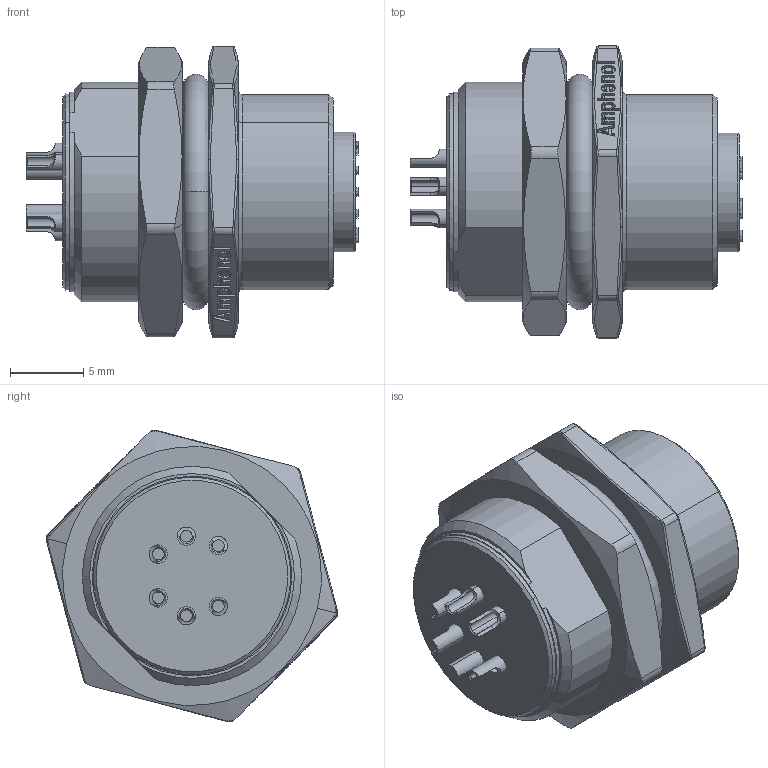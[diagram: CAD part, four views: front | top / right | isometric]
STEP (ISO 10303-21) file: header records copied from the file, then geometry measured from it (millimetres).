
FILE_DESCRIPTION((''),'2;1');
FILE_NAME('M12A-06PFFS-SH8001_SW0001','2016-11-30T',('ks7709'),(''),'PRO/ENGINEER BY PARAMETRIC TECHNOLOGY CORPORATION, 2013050','PRO/ENGINEER BY PARAMETRIC TECHNOLOGY CORPORATION, 2013050','');
FILE_SCHEMA(('CONFIG_CONTROL_DESIGN'));
Length unit declared in the file: millimetre
Products named in the file (1): M12A-06PFFS-SH8001_SW0001
Bounding box: 22.7 x 19.96 x 19.96 mm (x, y, z)
Volume: 3247.8 mm3; surface area: 2705.4 mm2
Topology: 1 solids, 1 shells, 704 faces, 1823 edges, 1184 vertices
Faces by surface type: plane 312, extrusion 141, cylinder 134, cone 66, bspline 38, torus 11, sphere 2
Entity records: 31121 total; most frequent: CARTESIAN_POINT 9429, ORIENTED_EDGE 3622, DIRECTION 2906, EDGE_CURVE 1811, VERTEX_POINT 1184, VECTOR 1080, LINE 939, AXIS2_PLACEMENT_3D 913
